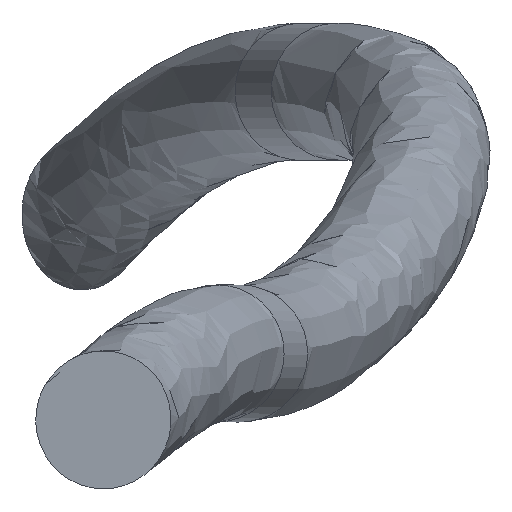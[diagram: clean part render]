
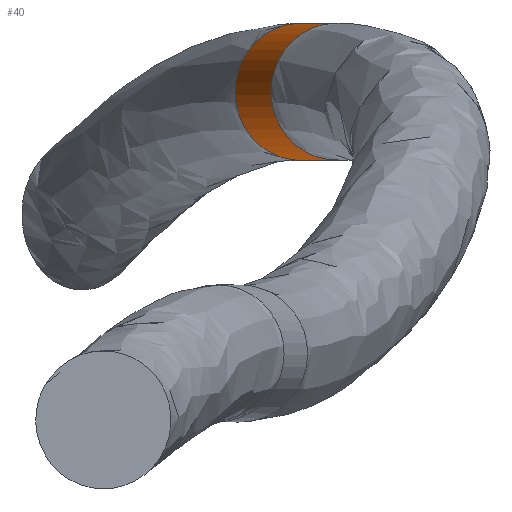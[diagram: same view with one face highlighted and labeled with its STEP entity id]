
A CAD part, top view. The second image highlights one B-rep face of the part: STEP entity #40.
In plain terms, the highlighted cylindrical face has radius 25 mm (diameter 50 mm), a full revolution.
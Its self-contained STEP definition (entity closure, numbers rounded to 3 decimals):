
#5 = ORIENTED_EDGE ( 'NONE', *, *, #1083, .T. ) ;
#40 = ADVANCED_FACE ( 'NONE', ( #192, #315 ), #1292, .T. ) ;
#114 = CIRCLE ( 'NONE', #805, 25. ) ;
#192 = FACE_OUTER_BOUND ( 'NONE', #1118, .T. ) ;
#315 = FACE_OUTER_BOUND ( 'NONE', #470, .T. ) ;
#346 = VERTEX_POINT ( 'NONE', #802 ) ;
#373 = DIRECTION ( 'NONE',  ( -0.85, 0.459, 0.26 ) ) ;
#470 = EDGE_LOOP ( 'NONE', ( #1434 ) ) ;
#483 = DIRECTION ( 'NONE',  ( -0.292, 0., -0.956 ) ) ;
#494 = CIRCLE ( 'NONE', #515, 25. ) ;
#515 = AXIS2_PLACEMENT_3D ( 'NONE', #1188, #1065, #1084 ) ;
#639 = AXIS2_PLACEMENT_3D ( 'NONE', #749, #882, #979 ) ;
#704 = CARTESIAN_POINT ( 'NONE',  ( 356.627, -253.971, 1031.554 ) ) ;
#717 = CARTESIAN_POINT ( 'NONE',  ( 377.866, -265.448, 1025.061 ) ) ;
#749 = CARTESIAN_POINT ( 'NONE',  ( 377.866, -265.448, 1025.061 ) ) ;
#802 = CARTESIAN_POINT ( 'NONE',  ( 369.783, -253.971, 1074.588 ) ) ;
#805 = AXIS2_PLACEMENT_3D ( 'NONE', #717, #483, #373 ) ;
#882 = DIRECTION ( 'NONE',  ( 0.292, 0., 0.956 ) ) ;
#893 = EDGE_CURVE ( 'NONE', #1055, #1055, #114, .T. ) ;
#979 = DIRECTION ( 'NONE',  ( 0.926, 0.248, -0.283 ) ) ;
#1055 = VERTEX_POINT ( 'NONE', #704 ) ;
#1065 = DIRECTION ( 'NONE',  ( -0.292, 0., -0.956 ) ) ;
#1083 = EDGE_CURVE ( 'NONE', #346, #346, #494, .T. ) ;
#1084 = DIRECTION ( 'NONE',  ( -0.85, 0.459, 0.26 ) ) ;
#1118 = EDGE_LOOP ( 'NONE', ( #5 ) ) ;
#1188 = CARTESIAN_POINT ( 'NONE',  ( 391.023, -265.448, 1068.094 ) ) ;
#1292 = CYLINDRICAL_SURFACE ( 'NONE', #639, 25. ) ;
#1434 = ORIENTED_EDGE ( 'NONE', *, *, #893, .F. ) ;
